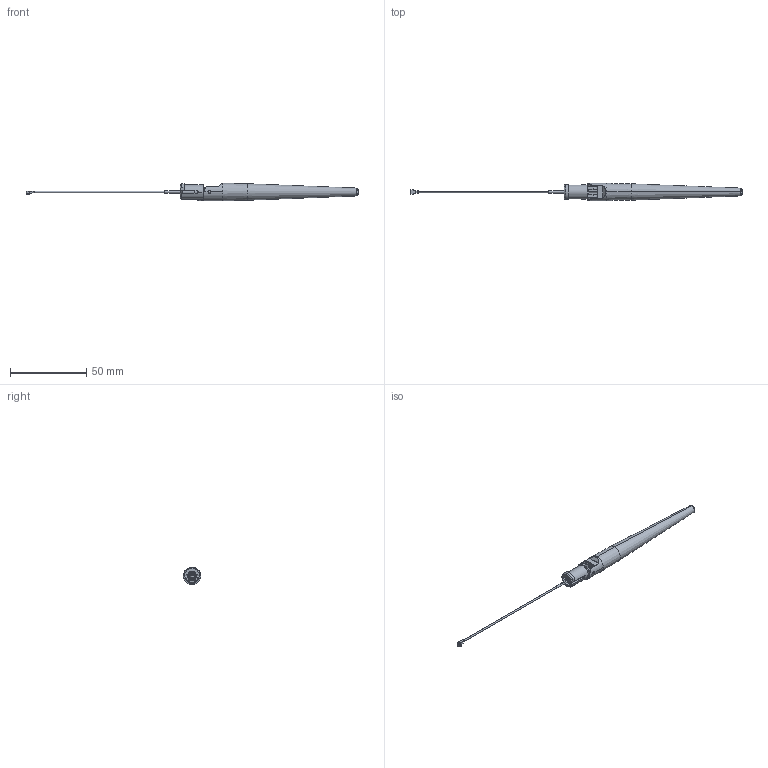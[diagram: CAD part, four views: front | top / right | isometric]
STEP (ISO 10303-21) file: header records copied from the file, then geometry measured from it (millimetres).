
FILE_DESCRIPTION((''),'2;1');
FILE_NAME('X9001958-W3DUNB0100','2025-05-20T',('gfichot'),(''),'CREO PARAMETRIC BY PTC INC, 2016130','CREO PARAMETRIC BY PTC INC, 2016130','');
FILE_SCHEMA(('CONFIG_CONTROL_DESIGN'));
Length unit declared in the file: millimetre
Products named in the file (1): X9001958-W3DUNB0100
Bounding box: 218.34 x 11.46 x 11.46 mm (x, y, z)
Surface area: 7670.4 mm2 (no closed solid volume)
Topology: 0 solids, 10 shells, 564 faces, 1670 edges, 1066 vertices
Faces by surface type: plane 248, cylinder 183, torus 45, bspline 39, cone 33, sphere 16
Entity records: 21373 total; most frequent: CARTESIAN_POINT 6934, ORIENTED_EDGE 3186, DIRECTION 2756, EDGE_CURVE 1667, VERTEX_POINT 1066, AXIS2_PLACEMENT_3D 979, VECTOR 798, LINE 798
